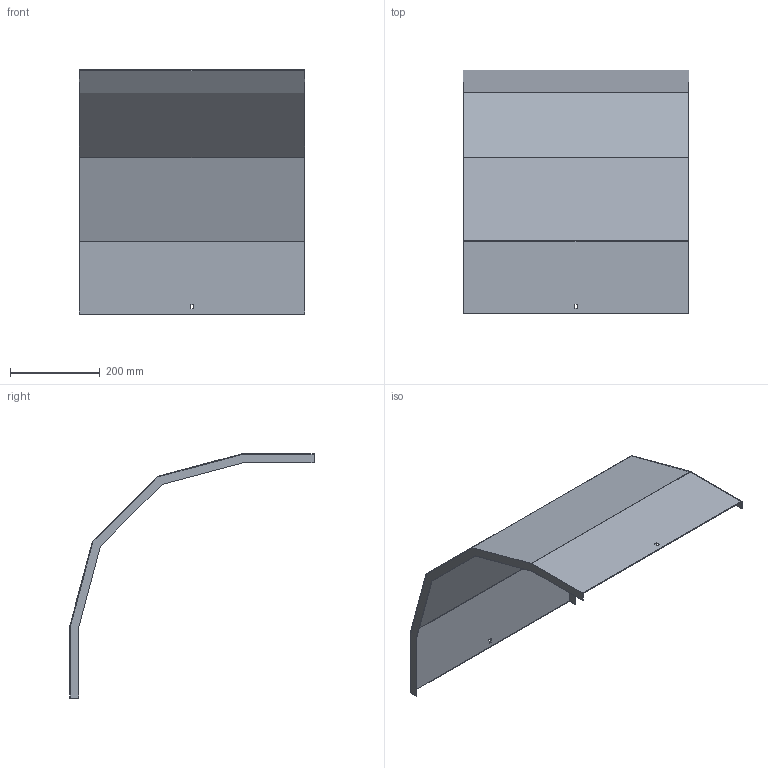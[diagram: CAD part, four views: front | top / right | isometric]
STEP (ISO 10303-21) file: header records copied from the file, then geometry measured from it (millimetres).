
FILE_DESCRIPTION (( 'STEP AP214' ), '1' );
FILE_NAME ('A2_33N3C500.step', '2025-02-21T10:44:31', ( '' ), ( '' ), 'SwSTEP 2.0', 'SolidWorks 2023', '' );
FILE_SCHEMA (( 'AUTOMOTIVE_DESIGN' ));
Length unit declared in the file: millimetre
Products named in the file (1): A2_33N3C500
Bounding box: 503 x 544.46 x 544.46 mm (x, y, z)
Volume: 740710.5 mm3; surface area: 991985.7 mm2
Topology: 1 solids, 1 shells, 34 faces, 96 edges, 64 vertices
Faces by surface type: plane 34
Entity records: 1111 total; most frequent: CARTESIAN_POINT 195, ORIENTED_EDGE 192, DIRECTION 166, EDGE_CURVE 96, VECTOR 96, LINE 96, VERTEX_POINT 64, EDGE_LOOP 38
